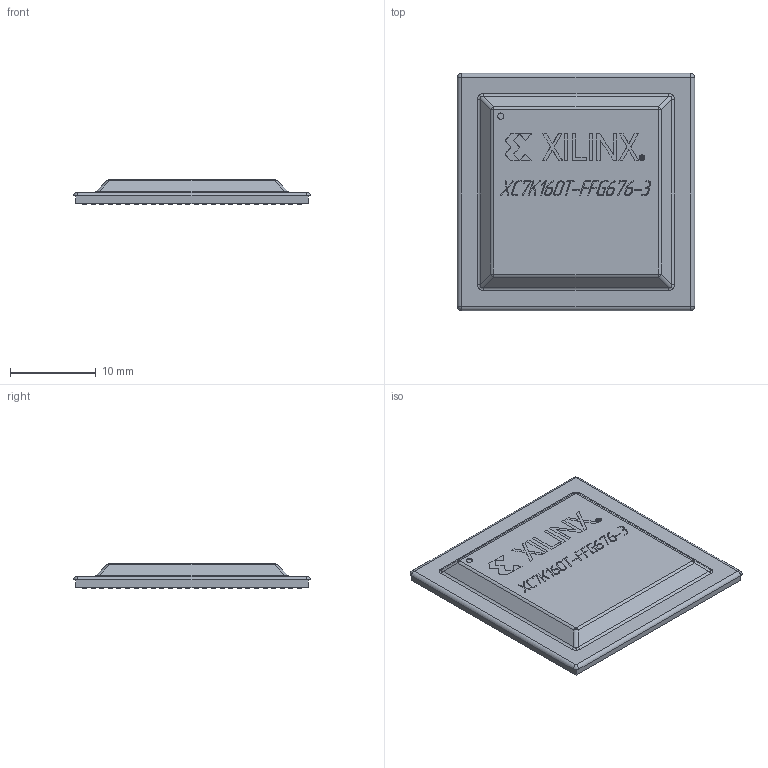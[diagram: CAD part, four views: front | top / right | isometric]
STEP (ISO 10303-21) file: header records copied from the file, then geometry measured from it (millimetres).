
FILE_DESCRIPTION (( 'STEP AP214' ), '1' );
FILE_NAME ('User Library-BGA_676_27x27_P1_00_PLS.STEP', '2020-10-25T13:04:31', ( '' ), ( '' ), 'SwSTEP 2.0', 'SolidWorks 2020', '' );
FILE_SCHEMA (( 'AUTOMOTIVE_DESIGN' ));
Length unit declared in the file: millimetre
Products named in the file (1): User Library-BGA_676_27x27_P1_00_PLS
Bounding box: 27.6 x 27.6 x 2.9 mm (x, y, z)
Volume: 1629.1 mm3; surface area: 1787.8 mm2
Topology: 1 solids, 1 shells, 2750 faces, 6089 edges, 4053 vertices
Faces by surface type: cylinder 1596, plane 966, bspline 180, sphere 8
Entity records: 112449 total; most frequent: CARTESIAN_POINT 18985, DIRECTION 14067, ORIENTED_EDGE 12178, EDGE_CURVE 6089, AXIS2_PLACEMENT_3D 5767, VERTEX_POINT 4053, EDGE_LOOP 3462, CIRCLE 3196
